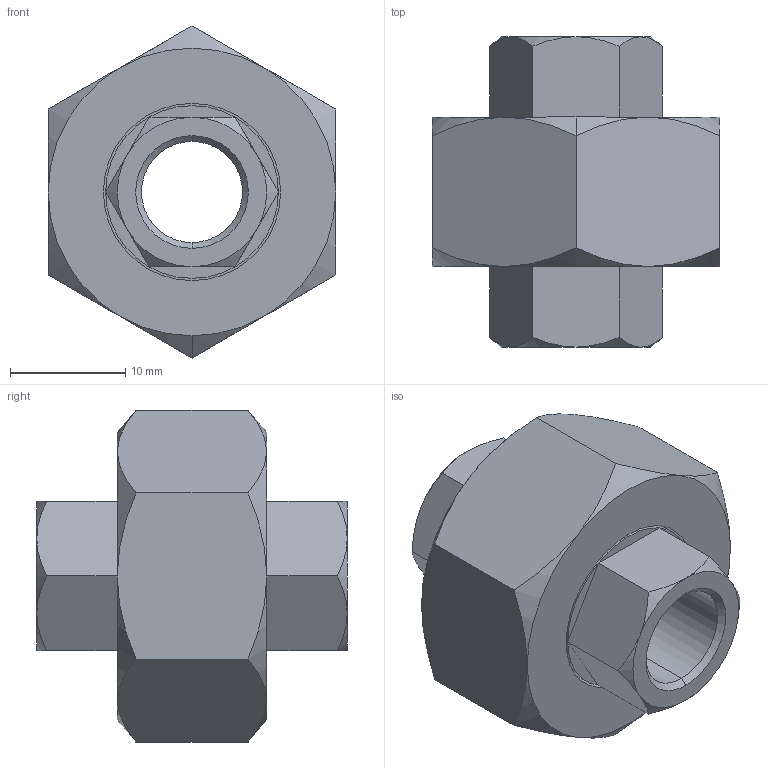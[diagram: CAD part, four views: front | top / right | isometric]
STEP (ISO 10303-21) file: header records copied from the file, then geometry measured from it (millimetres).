
FILE_DESCRIPTION (( 'STEP AP203' ), '1' );
FILE_NAME ('AXH14 B1B1 00.STEP', '2018-11-17T14:25:08', ( '' ), ( '' ), 'SwSTEP 2.0', 'SolidWorks 2013', '' );
FILE_SCHEMA (( 'CONFIG_CONTROL_DESIGN' ));
Length unit declared in the file: millimetre
Products named in the file (1): AXH14 B1B1 00
Bounding box: 25 x 27 x 28.87 mm (x, y, z)
Volume: 7041.1 mm3; surface area: 3918.4 mm2
Topology: 1 solids, 1 shells, 88 faces, 180 edges, 100 vertices
Faces by surface type: plane 38, cone 34, cylinder 16
Entity records: 2581 total; most frequent: CARTESIAN_POINT 705, DIRECTION 386, ORIENTED_EDGE 360, EDGE_CURVE 180, AXIS2_PLACEMENT_3D 165, VERTEX_POINT 100, EDGE_LOOP 96, ADVANCED_FACE 88
